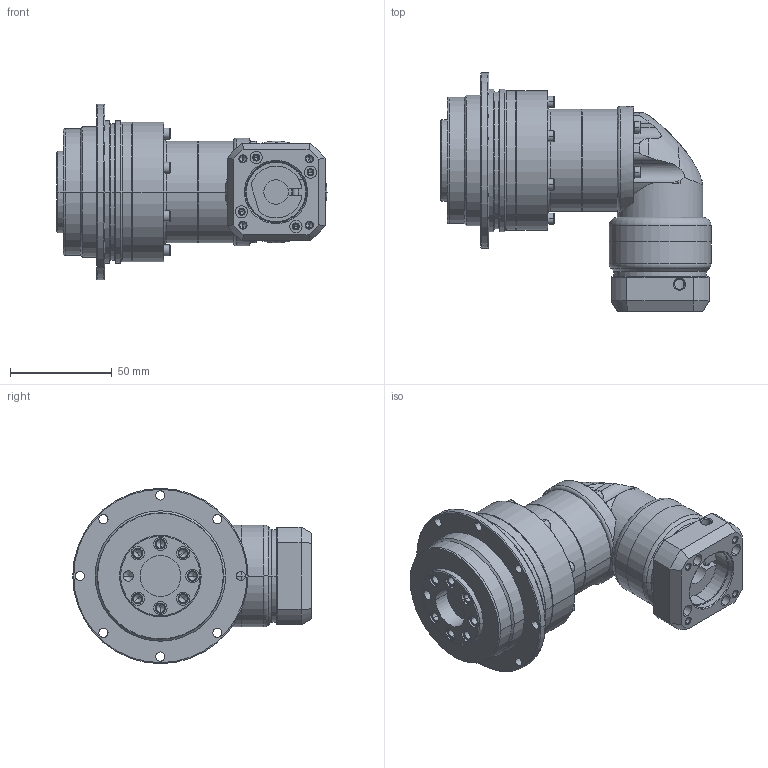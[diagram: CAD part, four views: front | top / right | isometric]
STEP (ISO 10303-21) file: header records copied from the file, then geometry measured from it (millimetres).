
FILE_DESCRIPTION((''),'2;1');
FILE_NAME('ADR0642-P0403100302_ASM','2008-08-29T',('d00080'),(''),'PRO/ENGINEER BY PARAMETRIC TECHNOLOGY CORPORATION, 2006170','PRO/ENGINEER BY PARAMETRIC TECHNOLOGY CORPORATION, 2006170','');
FILE_SCHEMA(('CONFIG_CONTROL_DESIGN'));
Length unit declared in the file: millimetre
Products named in the file (11): AD064-2; PH220001; 220120416; AH_RING_GEAR-SET2-2_ASM; P100200001; 222000001; 220100406; HOUSING-SET-1_ASM; P1305100001; P0403100302; ADR0642-P0403100302_ASM
Assembly tree (23 placements, depth 3):
  ADR0642-P0403100302_ASM
    AD064-2
    AH_RING_GEAR-SET2-2_ASM
      PH220001
      220120416  x8
    HOUSING-SET-1_ASM
      P100200001
      222000001  x4
      220100406  x4
    P1305100001
    P0403100302
Bounding box: 132.5 x 117 x 86 mm (x, y, z)
Volume: 376287.4 mm3; surface area: 79710.3 mm2
Topology: 22 solids, 54 shells, 976 faces, 2202 edges, 1319 vertices
Faces by surface type: cylinder 416, plane 296, cone 182, torus 65, bspline 17
Entity records: 19525 total; most frequent: CARTESIAN_POINT 4286, DIRECTION 3499, ORIENTED_EDGE 2752, AXIS2_PLACEMENT_3D 1477, EDGE_CURVE 1440, VERTEX_POINT 915, CIRCLE 794, EDGE_LOOP 791
